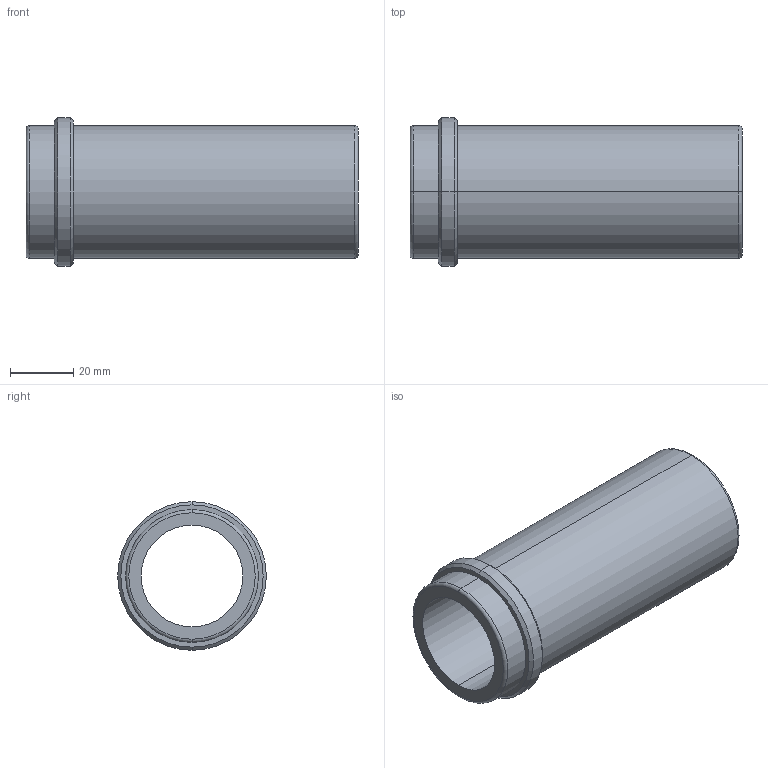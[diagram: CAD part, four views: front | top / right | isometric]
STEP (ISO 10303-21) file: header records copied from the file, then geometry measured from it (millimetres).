
FILE_DESCRIPTION (( 'STEP AP214' ), '1' );
FILE_NAME ('BR10 32x96.STEP', '2019-12-04T16:21:28', ( 'August' ), ( '' ), 'SwSTEP 2.0', 'SolidWorks 2018', '' );
FILE_SCHEMA (( 'AUTOMOTIVE_DESIGN' ));
Length unit declared in the file: millimetre
Products named in the file (1): BR10 32x96
Bounding box: 105 x 47 x 47 mm (x, y, z)
Volume: 61862 mm3; surface area: 26121.9 mm2
Topology: 1 solids, 1 shells, 20 faces, 40 edges, 24 vertices
Faces by surface type: cylinder 8, cone 4, torus 4, plane 4
Entity records: 566 total; most frequent: DIRECTION 110, CARTESIAN_POINT 85, ORIENTED_EDGE 80, AXIS2_PLACEMENT_3D 49, EDGE_CURVE 40, CIRCLE 28, VERTEX_POINT 24, EDGE_LOOP 24
